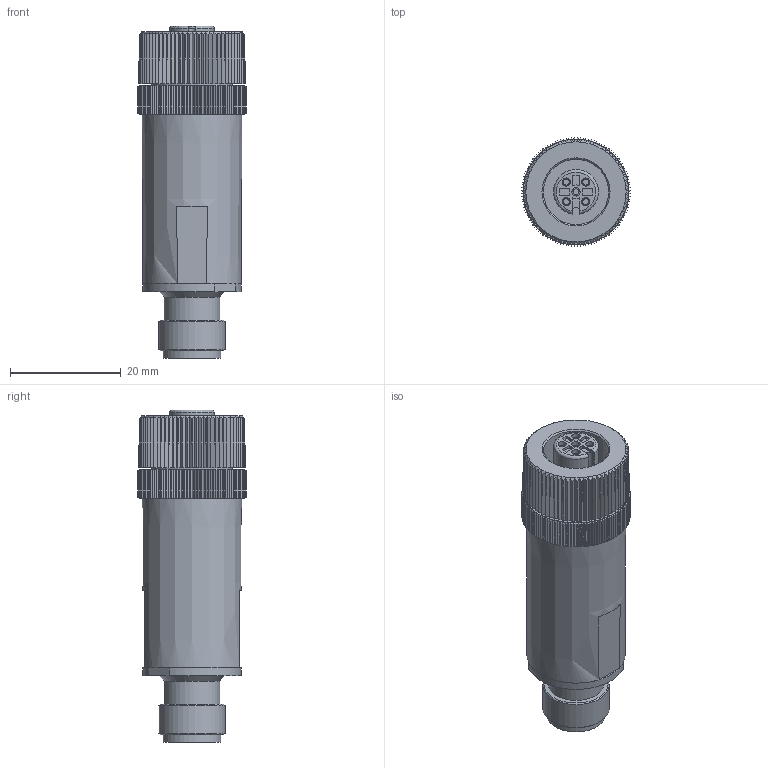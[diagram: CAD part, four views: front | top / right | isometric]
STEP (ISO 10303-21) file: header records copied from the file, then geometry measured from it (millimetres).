
FILE_DESCRIPTION((''),'2;1');
FILE_NAME('C:\TurckZip\SP-X.stp','2008-09-15T13:43:06',('IKOROL'),(''),'Autodesk Inventor 2008','Autodesk Inventor 2008','');
FILE_SCHEMA(('CONFIG_CONTROL_DESIGN'));
Length unit declared in the file: millimetre
Products named in the file (1): Part1
Bounding box: 19.59 x 19.59 x 60 mm (x, y, z)
Volume: 11598.7 mm3; surface area: 6215.8 mm2
Topology: 2 solids, 3 shells, 1036 faces, 2482 edges, 1490 vertices
Faces by surface type: plane 460, cone 317, cylinder 254, bspline 4, torus 1
Full cylindrical faces by diameter (mm): 1 x5, 1.1 x5, 1.2 x1, 1.5 x5, 1.7 x10, 2 x1, 7.1 x1, 8.1 x1, 8.3 x1, 9.1 x1, 10 x1, 10.5 x1, 11.8 x1, 12 x1, 14.5 x1, 18 x1
Entity records: 29767 total; most frequent: CARTESIAN_POINT 6728, ORIENTED_EDGE 4864, DIRECTION 4500, EDGE_CURVE 2432, AXIS2_PLACEMENT_3D 1809, VERTEX_POINT 1485, EDGE_LOOP 1123, FACE_OUTER_BOUND 1036
